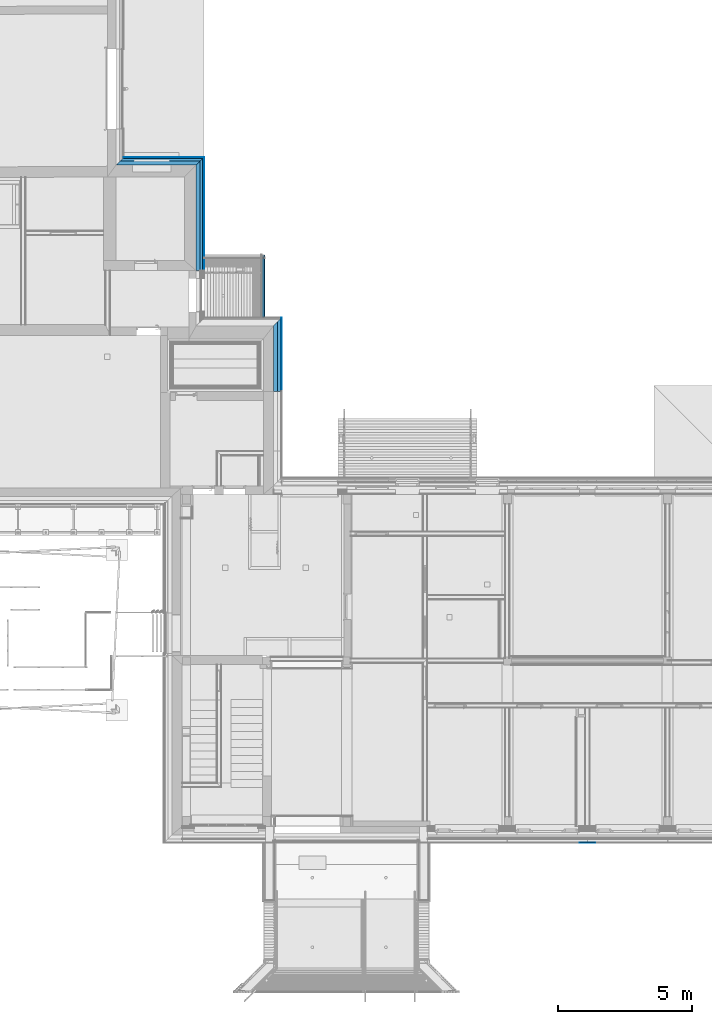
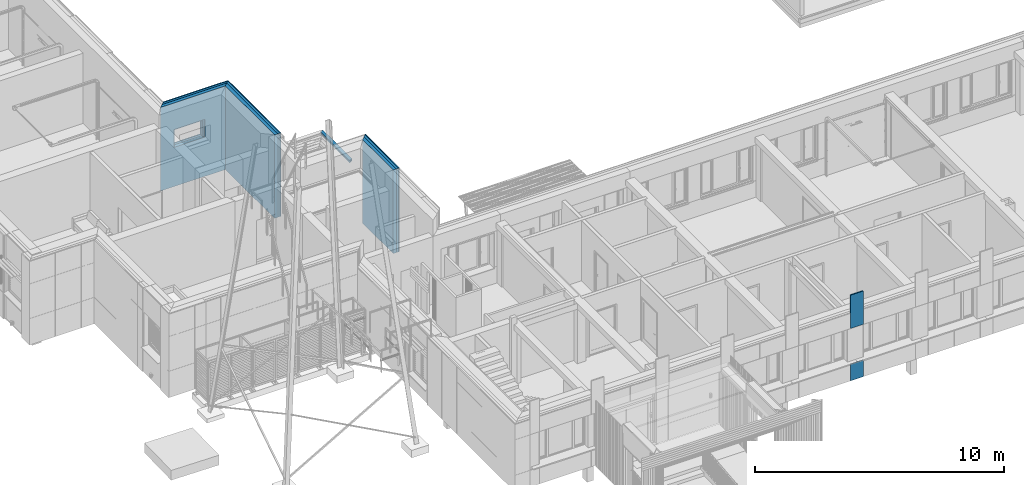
# One storey, part 38 of 418: 19 building element parts, 14 openings, 6 elements without a shape of their own.
"""IFC2X3 building model written with IfcOpenShell, lengths in millimetres."""

from ifc_helpers import new_model, entity, si_unit, converted_unit, derived_unit, money_unit, direction, frame, origin_with_axes, origin_2d_with_axis, place, context, subcontext, project, spatial, polyline, rectangle, outline, extrude, material, type_object, element, aggregate, save


model = new_model("IFC2X3")

# Units and contexts
model_context = context("Model", 3, precision=0.01, world=origin_with_axes(), true_north=direction((0.0, 1.0)))
body_context = subcontext(model_context, "Body", "Model", "MODEL_VIEW")
ifc_project = project(units=[si_unit("LENGTHUNIT", "METRE", prefix="MILLI"), si_unit("AREAUNIT", "SQUARE_METRE"), si_unit("VOLUMEUNIT", "CUBIC_METRE"), converted_unit("PLANEANGLEUNIT", "DEGREE", entity("IfcPlaneAngleMeasure", 0.0174532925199), si_unit("PLANEANGLEUNIT", "RADIAN"), dimensions=[0, 0, 0, 0, 0, 0, 0]), si_unit("SOLIDANGLEUNIT", "STERADIAN"), money_unit("EUR"), converted_unit("TIMEUNIT", "Year", entity("IfcTimeMeasure", 31556926.0), si_unit("TIMEUNIT", "SECOND"), dimensions=[0, 0, 1, 0, 0, 0, 0]), si_unit("MASSUNIT", "GRAM", prefix="KILO"), si_unit("THERMODYNAMICTEMPERATUREUNIT", "DEGREE_CELSIUS"), si_unit("LUMINOUSINTENSITYUNIT", "LUMEN"), si_unit("ENERGYUNIT", "JOULE", prefix="MEGA"), derived_unit("THERMALCONDUCTANCEUNIT", [(si_unit("POWERUNIT", "WATT"), 1), (si_unit("LENGTHUNIT", "METRE"), -1), (si_unit("THERMODYNAMICTEMPERATUREUNIT", "KELVIN"), -1)]), derived_unit("SPECIFICHEATCAPACITYUNIT", [(si_unit("ENERGYUNIT", "JOULE"), 1), (si_unit("MASSUNIT", "GRAM", prefix="KILO"), -1), (si_unit("THERMODYNAMICTEMPERATUREUNIT", "KELVIN"), -1)]), derived_unit("MASSDENSITYUNIT", [(si_unit("MASSUNIT", "GRAM", prefix="KILO"), 1), (si_unit("VOLUMEUNIT", "CUBIC_METRE"), -1)])], contexts=[model_context])

# Site, building, storey
site_placement = place(None, origin_with_axes())
site = spatial("IfcSite", under=ifc_project, at=site_placement, Name="Paldiski mnt 245/1, Tallinn, Harjumaa", CompositionType="COMPLEX")
building_placement = place(site_placement, origin_with_axes())
building = spatial("IfcBuilding", under=site, at=building_placement, Name="RKAS Hoone üldnimetus (kasutust iseloomustav) -> IFC Project Manager -> SOLIBRI", CompositionType="ELEMENT")
storey_placement = place(building_placement, origin_with_axes())
storey = spatial("IfcBuildingStorey", under=building, at=storey_placement, Name="Esimene korrus", CompositionType="ELEMENT", Elevation=0.0)

# Wall, openings, building element parts
wall_type_1 = type_object("IfcWallType", Name="VS-03J_uued_kihid 300", PredefinedType="NOTDEFINED")
wall_1_placement = place(storey_placement, frame((-47070.0, 12189.8287244, 0.0), z_axis=(0.0, 0.0, 1.0), x_axis=(-1.0, 0.0, 0.0)))
wall_1 = element("IfcWall", 1, at=wall_1_placement, inside=storey, type_object=wall_type_1, Name="VS-03")
opening_1_placement = place(wall_1_placement, frame((1657.25115915, 0.0, 1920.0), z_axis=(0.0, 0.0, 1.0), x_axis=(1.0, 0.0, 0.0)))
element("IfcOpeningElement", 2, at=opening_1_placement, cuts=wall_1, Name="TTA-01", context=body_context, shape_type="SweptSolid", body=[
    extrude(rectangle(XDim=1320.0, YDim=805.0, at=origin_2d_with_axis()), frame((0.0, -49.9999999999, 402.5), z_axis=(0.0, -1.0, 0.0), x_axis=(-1.0, 0.0, 0.0)), (0.0, 0.0, 1.0), 550.0),
    extrude(rectangle(XDim=1450.0, YDim=870.0, at=origin_2d_with_axis()), frame((0.0, -49.9999999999, 435.0), z_axis=(0.0, -1.0, 0.0), x_axis=(-1.0, 0.0, 0.0)), (0.0, 0.0, -1.0), 50.0),
    extrude(rectangle(XDim=1450.0, YDim=870.0, at=origin_2d_with_axis()), frame((0.0, 0.0, 435.0), z_axis=(0.0, 1.0, 0.0), x_axis=(-1.0, 0.0, 0.0)), (0.0, 0.0, 1.0), 550.0),
])
opening_2_placement = place(wall_1_placement, frame((904.0, 0.0, 0.0), z_axis=(0.0, 0.0, 1.0), x_axis=(1.0, 0.0, 0.0)))
element("IfcOpeningElement", 3, at=opening_2_placement, cuts=wall_1, Name="Cembrit fassaadiplaadi vuuk", context=body_context, shape_type="SweptSolid", body=[
    extrude(outline(polyline([(-4.0, 0.0), (3.99999999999, 0.0), (3.99999999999, 4090.0), (-4.0, 4090.0), (-4.0, 0.0)])), frame((0.0, -292.0, 0.0), z_axis=(0.0, -1.0, 0.0), x_axis=(1.0, 0.0, 0.0)), (0.0, 0.0, 1.0), 308.0),
])
opening_3_placement = place(wall_1_placement, frame((1204.0, 0.0, 2990.0), z_axis=(0.0, 0.0, 1.0), x_axis=(1.0, 0.0, 0.0)))
element("IfcOpeningElement", 4, at=opening_3_placement, cuts=wall_1, Name="Cembrit fassaadiplaadi vuuk", context=body_context, shape_type="SweptSolid", body=[
    extrude(outline(polyline([(-1504.0, 0.0), (1504.0, 0.0), (1504.0, 8.0), (-1504.0, 8.0), (-1504.0, 0.0)])), frame((0.0, -292.0, 0.0), z_axis=(0.0, 1.0, 0.0), x_axis=(-1.0, 0.0, 0.0)), (0.0, 0.0, -1.0), 308.0),
])
opening_4_placement = place(wall_1_placement, frame((1204.0, 0.0, 1298.0), z_axis=(0.0, 0.0, 1.0), x_axis=(1.0, 0.0, 0.0)))
element("IfcOpeningElement", 5, at=opening_4_placement, cuts=wall_1, Name="Cembrit fassaadiplaadi vuuk", context=body_context, shape_type="SweptSolid", body=[
    extrude(outline(polyline([(-1504.0, 0.0), (1504.0, 0.0), (1504.0, 8.0), (-1504.0, 8.0), (-1504.0, 0.0)])), frame((0.0, -292.0, 0.0), z_axis=(0.0, 1.0, 0.0), x_axis=(-1.0, 0.0, 0.0)), (0.0, 0.0, -1.0), 308.0),
])
opening_5_placement = place(wall_1_placement, frame((2104.0, 0.0, 0.0), z_axis=(0.0, 0.0, 1.0), x_axis=(1.0, 0.0, 0.0)))
element("IfcOpeningElement", 6, at=opening_5_placement, cuts=wall_1, Name="Cembrit fassaadiplaadi vuuk", context=body_context, shape_type="SweptSolid", body=[
    extrude(outline(polyline([(-4.0, 0.0), (3.99999999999, 0.0), (3.99999999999, 4090.0), (-4.0, 4090.0), (-4.0, 0.0)])), frame((0.0, -292.0, 0.0), z_axis=(0.0, -1.0, 0.0), x_axis=(1.0, 0.0, 0.0)), (0.0, 0.0, 1.0), 308.0),
])
ifc_material_1 = material(Name="Cembrit_C040")
building_element_part_1_placement = place(wall_1_placement, origin_with_axes())
building_element_part_1 = element("IfcBuildingElementPart", 7, at=building_element_part_1_placement, material=ifc_material_1, Name="Cembrit_C040", context=body_context, shape_type="SweptSolid", body=[
    extrude(outline(polyline([(-300.0, -300.0), (2700.0, -300.0), (2708.0, -292.0), (-292.0, -292.0), (-300.0, -300.0)])), origin_with_axes(), (0.0, 0.0, 1.0), 4090.0),
])
ifc_material_2 = material(Name="VKR-06_Õhkvahe")
building_element_part_2_placement = place(wall_1_placement, origin_with_axes())
building_element_part_2 = element("IfcBuildingElementPart", 8, at=building_element_part_2_placement, material=ifc_material_2, Name="VKR-06_Õhkvahe", context=body_context, shape_type="SweptSolid", body=[
    extrude(outline(polyline([(-292.0, -292.0), (2708.0, -292.0), (2750.0, -250.0), (-250.0, -250.0), (-292.0, -292.0)])), origin_with_axes(), (0.0, 0.0, 1.0), 4090.0),
])
ifc_material_3 = material(Name="Kingspan Kooltherm")
building_element_part_3_placement = place(wall_1_placement, origin_with_axes())
building_element_part_3 = element("IfcBuildingElementPart", 9, at=building_element_part_3_placement, material=ifc_material_3, Name="Kingspan Kooltherm", context=body_context, shape_type="SweptSolid", body=[
    extrude(outline(polyline([(-250.0, -250.0), (2750.0, -250.0), (2850.0, -150.0), (-150.0, -150.0), (-250.0, -250.0)])), origin_with_axes(), (0.0, 0.0, 1.0), 4090.0),
])
building_element_part_4_placement = place(wall_1_placement, origin_with_axes())
building_element_part_4 = element("IfcBuildingElementPart", 10, at=building_element_part_4_placement, material=ifc_material_3, Name="Kingspan Kooltherm", context=body_context, shape_type="SweptSolid", body=[
    extrude(outline(polyline([(-150.0, -150.0), (2850.0, -150.0), (3000.0, 0.0), (0.0, 0.0), (-150.0, -150.0)])), origin_with_axes(), (0.0, 0.0, 1.0), 4090.0),
])
aggregate(wall_1, [building_element_part_1, building_element_part_2, building_element_part_3, building_element_part_4])

# Covering, building element parts
covering_type = type_object("IfcCoveringType", Name="VS-02_Cembrit_c040 50", PredefinedType="NOTDEFINED")
covering_1_placement = place(storey_placement, frame((-32746.0, -13130.0843011, 0.0), z_axis=(0.0, 0.0, 1.0), x_axis=(1.0, 0.0, 0.0)))
covering_1 = element("IfcCovering", 11, at=covering_1_placement, inside=storey, type_object=covering_type, Name="VS-02", PredefinedType="NOTDEFINED")
building_element_part_5_placement = place(covering_1_placement, origin_with_axes())
building_element_part_5 = element("IfcBuildingElementPart", 12, at=building_element_part_5_placement, material=ifc_material_1, Name="Cembrit_C040", context=body_context, shape_type="SweptSolid", body=[
    extrude(outline(polyline([(0.0, 0.0), (592.0, 0.0), (592.0, 8.0), (0.0, 8.0), (0.0, 0.0)])), origin_with_axes(), (0.0, 0.0, 1.0), 810.0),
])
building_element_part_6_placement = place(covering_1_placement, origin_with_axes())
building_element_part_6 = element("IfcBuildingElementPart", 13, at=building_element_part_6_placement, material=ifc_material_2, Name="VKR-06_Õhkvahe", context=body_context, shape_type="SweptSolid", body=[
    extrude(outline(polyline([(0.0, 8.0), (592.0, 8.0), (592.0, 50.0), (0.0, 50.0), (0.0, 8.0)])), origin_with_axes(), (0.0, 0.0, 1.0), 810.0),
])
aggregate(covering_1, [building_element_part_5, building_element_part_6])

covering_2_placement = place(storey_placement, frame((-32746.0, -13130.0843011, 2560.0), z_axis=(0.0, 0.0, 1.0), x_axis=(1.0, 0.0, 0.0)))
covering_2 = element("IfcCovering", 14, at=covering_2_placement, inside=storey, type_object=covering_type, Name="VS-02", PredefinedType="NOTDEFINED")
building_element_part_7_placement = place(covering_2_placement, origin_with_axes())
building_element_part_7 = element("IfcBuildingElementPart", 15, at=building_element_part_7_placement, material=ifc_material_1, Name="Cembrit_C040", context=body_context, shape_type="SweptSolid", body=[
    extrude(outline(polyline([(0.0, 0.0), (592.0, 0.0), (592.0, 8.0), (0.0, 8.0), (0.0, 0.0)])), origin_with_axes(), (0.0, 0.0, 1.0), 1630.0),
])
building_element_part_8_placement = place(covering_2_placement, origin_with_axes())
building_element_part_8 = element("IfcBuildingElementPart", 16, at=building_element_part_8_placement, material=ifc_material_2, Name="VKR-06_Õhkvahe", context=body_context, shape_type="SweptSolid", body=[
    extrude(outline(polyline([(0.0, 8.0), (592.0, 8.0), (592.0, 50.0), (0.0, 50.0), (0.0, 8.0)])), origin_with_axes(), (0.0, 0.0, 1.0), 1630.0),
])
aggregate(covering_2, [building_element_part_7, building_element_part_8])

# Wall, openings, building element parts
wall_type_2 = type_object("IfcWallType", Name="VS-03M_uued_kihid 300", PredefinedType="NOTDEFINED")
wall_2_placement = place(storey_placement, frame((-44180.5504586, 3739.82872435, 0.0), z_axis=(0.0, 0.0, 1.0), x_axis=(0.0, 1.0, 0.0)))
wall_2 = element("IfcWall", 17, at=wall_2_placement, inside=storey, type_object=wall_type_2, Name="VS-07")
opening_6_placement = place(wall_2_placement, frame((1546.0, 0.0, 0.0), z_axis=(0.0, 0.0, 1.0), x_axis=(1.0, 0.0, 0.0)))
element("IfcOpeningElement", 18, at=opening_6_placement, cuts=wall_2, Name="Cembrit fassaadiplaadi vuuk", context=body_context, shape_type="SweptSolid", body=[
    extrude(outline(polyline([(-3.99999999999, 0.0), (4.00000000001, 0.0), (4.00000000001, 4090.0), (-3.99999999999, 4090.0), (-3.99999999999, 0.0)])), frame((0.0, -292.0, 0.0), z_axis=(0.0, 1.0, 0.0), x_axis=(-1.0, 0.0, 0.0)), (0.0, 0.0, -1.0), 308.0),
])
opening_7_placement = place(wall_2_placement, frame((346.0, 0.0, 0.0), z_axis=(0.0, 0.0, 1.0), x_axis=(1.0, 0.0, 0.0)))
element("IfcOpeningElement", 19, at=opening_7_placement, cuts=wall_2, Name="Cembrit fassaadiplaadi vuuk", context=body_context, shape_type="SweptSolid", body=[
    extrude(outline(polyline([(-3.99999999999, 0.0), (4.00000000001, 0.0), (4.00000000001, 4090.0), (-3.99999999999, 4090.0), (-3.99999999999, 0.0)])), frame((0.0, -292.0, 0.0), z_axis=(0.0, 1.0, 0.0), x_axis=(-1.0, 0.0, 0.0)), (0.0, 0.0, -1.0), 308.0),
])
opening_8_placement = place(wall_2_placement, frame((-349.914302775, 0.0, 2990.0), z_axis=(0.0, 0.0, 1.0), x_axis=(1.0, 0.0, 0.0)))
element("IfcOpeningElement", 20, at=opening_8_placement, cuts=wall_2, Name="Cembrit fassaadiplaadi vuuk", context=body_context, shape_type="SweptSolid", body=[
    extrude(outline(polyline([(-3099.91430278, 0.0), (3099.91430278, 0.0), (3099.91430278, 8.0), (-3099.91430278, 8.0), (-3099.91430278, 0.0)])), frame((0.0, -292.0, 0.0), z_axis=(0.0, 1.0, 0.0), x_axis=(-1.0, 0.0, 0.0)), (0.0, 0.0, -1.0), 308.0),
])
opening_9_placement = place(wall_2_placement, frame((-349.914312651, 0.0, 1298.0), z_axis=(0.0, 0.0, 1.0), x_axis=(1.0, 0.0, 0.0)))
element("IfcOpeningElement", 21, at=opening_9_placement, cuts=wall_2, Name="Cembrit fassaadiplaadi vuuk", context=body_context, shape_type="SweptSolid", body=[
    extrude(outline(polyline([(-3099.91431265, 0.0), (3099.91431265, 0.0), (3099.91431265, 8.0), (-3099.91431265, 8.0), (-3099.91431265, 0.0)])), frame((0.0, -292.0, 0.0), z_axis=(0.0, 1.0, 0.0), x_axis=(-1.0, 0.0, 0.0)), (0.0, 0.0, -1.0), 308.0),
])
ifc_material_4 = material(Name="Cembrit_C020")
building_element_part_9_placement = place(wall_2_placement, origin_with_axes())
building_element_part_9 = element("IfcBuildingElementPart", 22, at=building_element_part_9_placement, material=ifc_material_4, Name="Cembrit_C020", context=body_context, shape_type="SweptSolid", body=[
    extrude(outline(polyline([(0.0, -300.0), (2750.0, -300.0), (2742.0, -292.0), (0.0, -292.0), (0.0, -300.0)])), origin_with_axes(), (0.0, 0.0, 1.0), 4090.0),
])
building_element_part_10_placement = place(wall_2_placement, origin_with_axes())
building_element_part_10 = element("IfcBuildingElementPart", 23, at=building_element_part_10_placement, material=ifc_material_2, Name="VKR-06_Õhkvahe", context=body_context, shape_type="SweptSolid", body=[
    extrude(outline(polyline([(0.0, -292.0), (2742.0, -292.0), (2700.0, -250.0), (0.0, -250.0), (0.0, -292.0)])), origin_with_axes(), (0.0, 0.0, 1.0), 4090.0),
])
building_element_part_11_placement = place(wall_2_placement, origin_with_axes())
building_element_part_11 = element("IfcBuildingElementPart", 24, at=building_element_part_11_placement, material=ifc_material_3, Name="Kingspan Kooltherm", context=body_context, shape_type="SweptSolid", body=[
    extrude(outline(polyline([(0.0, -250.0), (2700.0, -250.0), (2600.0, -150.0), (0.0, -150.0), (0.0, -250.0)])), origin_with_axes(), (0.0, 0.0, 1.0), 4090.0),
])
building_element_part_12_placement = place(wall_2_placement, origin_with_axes())
building_element_part_12 = element("IfcBuildingElementPart", 25, at=building_element_part_12_placement, material=ifc_material_3, Name="Kingspan Kooltherm", context=body_context, shape_type="SweptSolid", body=[
    extrude(outline(polyline([(0.0, -150.0), (2600.0, -150.0), (2450.0, 0.0), (0.0, 0.0), (0.0, -150.0)])), origin_with_axes(), (0.0, 0.0, 1.0), 4090.0),
])
aggregate(wall_2, [building_element_part_9, building_element_part_10, building_element_part_11, building_element_part_12])

# Proxy, building element parts
building_element_proxy_type = type_object("IfcBuildingElementProxyType", Name="Varikatus_01_02_03_raastas_01_02_03 463 x 518", PredefinedType="NOTDEFINED")
proxy_placement = place(storey_placement, frame((-44517.6409449, 8833.7200537, 3002.0), z_axis=(0.0, 0.0, 1.0), x_axis=(0.0, -1.0, 0.0)))
proxy = element("IfcBuildingElementProxy", 26, at=proxy_placement, inside=storey, type_object=building_element_proxy_type, Name="Varikatus")
ifc_material_5 = material(Name="Laudis 5072 Honka 45 horisontaalne raastas")
building_element_part_13_placement = place(proxy_placement, origin_with_axes())
building_element_part_13 = element("IfcBuildingElementPart", 27, at=building_element_part_13_placement, material=ifc_material_5, Name="Laudis 5072 Honka 45 horisontaalne raastas", context=body_context, shape_type="SweptSolid", body=[
    extrude(outline(polyline([(-0.707110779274, -28.991377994), (70.0035572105, -99.7020658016), (77.0746259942, -92.6309996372), (62.9324932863, -78.4888616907), (70.7106681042, -70.7106876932), (60.4037490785, -60.4037652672), (55.4540010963, -65.3535115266), (51.4654463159, -61.3649565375), (56.4151941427, -56.4152087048), (45.9298674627, -45.9298803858), (40.9801194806, -50.8796266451), (36.6477185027, -46.5472250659), (41.5974664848, -41.5974788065), (31.0339169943, -31.0339261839), (26.0841690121, -35.9836724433), (21.5852050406, -31.4847067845), (26.5349528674, -26.5349589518), (0.0, 0.0), (-7.42462197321, -7.42461938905), (6.71751230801, -21.5667571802), (-0.707110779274, -28.991377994)])), frame((0.0, 0.0, 0.0), z_axis=(-1.0, 0.0, 0.0), x_axis=(0.0, -1.0, 0.0)), (0.0, 0.0, -1.0), 2329.49919644),
])
ifc_material_6 = material(Name="Puit - Konstruktsioon")
building_element_part_14_placement = place(proxy_placement, origin_with_axes())
building_element_part_14 = element("IfcBuildingElementPart", 28, at=building_element_part_14_placement, material=ifc_material_6, Name="Puit - Konstruktsioon", context=body_context, shape_type="SweptSolid", body=[
    extrude(outline(polyline([(1.15655691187e-06, 64.9893416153), (1.15655691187e-06, 4.50304654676e-07), (99.5753771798, 4.50304654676e-07), (99.5753771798, 24.9999969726), (1.15655691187e-06, 64.9893416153)])), frame((0.0, 0.0, 0.0), z_axis=(-1.0, 0.0, 0.0), x_axis=(0.0, -1.0, 0.0)), (0.0, 0.0, -1.0), 2329.49919644),
])
ifc_material_7 = material(Name="RAL7016")
building_element_part_15_placement = place(proxy_placement, origin_with_axes())
building_element_part_15 = element("IfcBuildingElementPart", 29, at=building_element_part_15_placement, material=ifc_material_7, Name="RAL7016", context=body_context, shape_type="SweptSolid", body=[
    extrude(outline(polyline([(-20.9999961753, -28.4630715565), (-8.11233371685, -15.5753892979), (-8.81944068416, -14.8682823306), (-20.0, -26.0488592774), (-20.0, 74.5582444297), (99.5753779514, 26.5369258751), (99.9264049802, 27.9350719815), (-20.9999961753, 75.7446341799), (-20.9999961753, -28.4630715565)])), frame((0.0, 0.0, 0.0), z_axis=(-1.0, 0.0, 0.0), x_axis=(0.0, -1.0, 0.0)), (0.0, 0.0, -1.0), 2329.49919644),
])
aggregate(proxy, [building_element_part_13, building_element_part_14, building_element_part_15])

# Wall, openings, building element parts
wall_type_3 = type_object("IfcWallType", Name="VS-03K_uued_kihid 300", PredefinedType="NOTDEFINED")
wall_3_placement = place(storey_placement, frame((-47070.0, 8250.0, 0.0), z_axis=(0.0, 0.0, 1.0), x_axis=(0.0, 1.0, 0.0)))
wall_3 = element("IfcWall", 30, at=wall_3_placement, inside=storey, type_object=wall_type_3, Name="VS-03")
opening_10_placement = place(wall_3_placement, frame((3035.82872435, 0.0, 0.0), z_axis=(0.0, 0.0, 1.0), x_axis=(1.0, 0.0, 0.0)))
element("IfcOpeningElement", 31, at=opening_10_placement, cuts=wall_3, Name="Cembrit fassaadiplaadi vuuk", context=body_context, shape_type="SweptSolid", body=[
    extrude(outline(polyline([(-3.99999999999, 0.0), (4.0, 0.0), (4.0, 4090.0), (-3.99999999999, 4090.0), (-3.99999999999, 0.0)])), frame((0.0, -292.0, 0.0), z_axis=(0.0, 1.0, 0.0), x_axis=(-1.0, 0.0, 0.0)), (0.0, 0.0, -1.0), 308.0),
])
opening_11_placement = place(wall_3_placement, frame((1835.82872435, 0.0, 0.0), z_axis=(0.0, 0.0, 1.0), x_axis=(1.0, 0.0, 0.0)))
element("IfcOpeningElement", 32, at=opening_11_placement, cuts=wall_3, Name="Cembrit fassaadiplaadi vuuk", context=body_context, shape_type="SweptSolid", body=[
    extrude(outline(polyline([(-3.99999999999, 0.0), (4.0, 0.0), (4.0, 4090.0), (-3.99999999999, 4090.0), (-3.99999999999, 0.0)])), frame((0.0, -292.0, 0.0), z_axis=(0.0, 1.0, 0.0), x_axis=(-1.0, 0.0, 0.0)), (0.0, 0.0, -1.0), 308.0),
])
opening_12_placement = place(wall_3_placement, frame((635.828724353, 0.0, 0.0), z_axis=(0.0, 0.0, 1.0), x_axis=(1.0, 0.0, 0.0)))
element("IfcOpeningElement", 33, at=opening_12_placement, cuts=wall_3, Name="Cembrit fassaadiplaadi vuuk", context=body_context, shape_type="SweptSolid", body=[
    extrude(outline(polyline([(-3.99999999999, 0.0), (4.0, 0.0), (4.0, 4090.0), (-3.99999999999, 4090.0), (-3.99999999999, 0.0)])), frame((0.0, -292.0, 0.0), z_axis=(0.0, 1.0, 0.0), x_axis=(-1.0, 0.0, 0.0)), (0.0, 0.0, -1.0), 308.0),
])
opening_13_placement = place(wall_3_placement, frame((2119.91436218, 0.0, 2990.0), z_axis=(0.0, 0.0, 1.0), x_axis=(1.0, 0.0, 0.0)))
element("IfcOpeningElement", 34, at=opening_13_placement, cuts=wall_3, Name="Cembrit fassaadiplaadi vuuk", context=body_context, shape_type="SweptSolid", body=[
    extrude(outline(polyline([(-2119.91436218, 0.0), (2119.91436218, 0.0), (2119.91436218, 8.0), (-2119.91436218, 8.0), (-2119.91436218, 0.0)])), frame((0.0, -292.0, 0.0), z_axis=(0.0, 1.0, 0.0), x_axis=(-1.0, 0.0, 0.0)), (0.0, 0.0, -1.0), 308.0),
])
opening_14_placement = place(wall_3_placement, frame((2101.77438903, 0.0, 1298.0), z_axis=(0.0, 0.0, 1.0), x_axis=(1.0, 0.0, 0.0)))
element("IfcOpeningElement", 35, at=opening_14_placement, cuts=wall_3, Name="Cembrit fassaadiplaadi vuuk", context=body_context, shape_type="SweptSolid", body=[
    extrude(outline(polyline([(-2138.05433533, 0.0), (2138.05433533, 0.0), (2138.05433533, 8.0), (-2138.05433533, 8.0), (-2138.05433533, 0.0)])), frame((0.0, -292.0, 0.0), z_axis=(0.0, 1.0, 0.0), x_axis=(-1.0, 0.0, 0.0)), (0.0, 0.0, -1.0), 308.0),
])
building_element_part_16_placement = place(wall_3_placement, origin_with_axes())
building_element_part_16 = element("IfcBuildingElementPart", 36, at=building_element_part_16_placement, material=ifc_material_4, Name="Cembrit_C020", context=body_context, shape_type="SweptSolid", body=[
    extrude(outline(polyline([(0.0, -300.0), (4239.82872435, -300.0), (4231.82872435, -292.0), (0.0, -292.0), (0.0, -300.0)])), origin_with_axes(), (0.0, 0.0, 1.0), 4090.0),
])
building_element_part_17_placement = place(wall_3_placement, origin_with_axes())
building_element_part_17 = element("IfcBuildingElementPart", 37, at=building_element_part_17_placement, material=ifc_material_2, Name="VKR-06_Õhkvahe", context=body_context, shape_type="SweptSolid", body=[
    extrude(outline(polyline([(0.0, -292.0), (4231.82872435, -292.0), (4189.82872435, -250.0), (0.0, -250.0), (0.0, -292.0)])), origin_with_axes(), (0.0, 0.0, 1.0), 4090.0),
])
building_element_part_18_placement = place(wall_3_placement, origin_with_axes())
building_element_part_18 = element("IfcBuildingElementPart", 38, at=building_element_part_18_placement, material=ifc_material_3, Name="Kingspan Kooltherm", context=body_context, shape_type="SweptSolid", body=[
    extrude(outline(polyline([(0.0, -250.0), (4189.82872435, -250.0), (4089.82872435, -150.0), (0.0, -150.0), (0.0, -250.0)])), origin_with_axes(), (0.0, 0.0, 1.0), 4090.0),
])
building_element_part_19_placement = place(wall_3_placement, origin_with_axes())
building_element_part_19 = element("IfcBuildingElementPart", 39, at=building_element_part_19_placement, material=ifc_material_3, Name="Kingspan Kooltherm", context=body_context, shape_type="SweptSolid", body=[
    extrude(outline(polyline([(0.0, -150.0), (4089.82872435, -150.0), (3939.82872435, 0.0), (0.0, 0.0), (0.0, -150.0)])), origin_with_axes(), (0.0, 0.0, 1.0), 4090.0),
])
aggregate(wall_3, [building_element_part_16, building_element_part_17, building_element_part_18, building_element_part_19])

save(model, "model.ifc")
